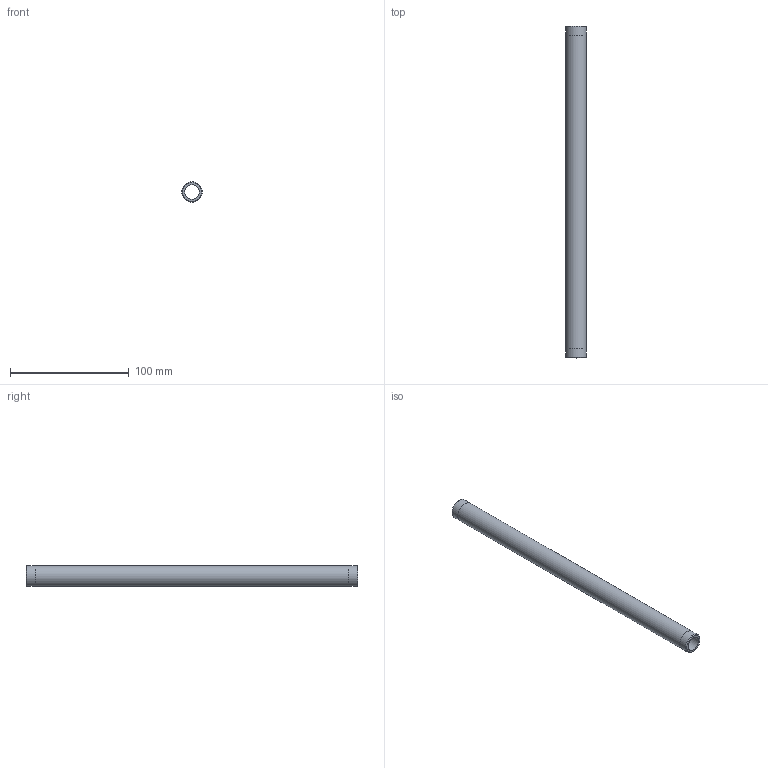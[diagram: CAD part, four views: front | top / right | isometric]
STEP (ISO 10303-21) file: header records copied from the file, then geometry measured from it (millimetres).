
FILE_DESCRIPTION(/* description */ (''),/* implementation_level */ '2;1');
FILE_NAME(/* name */ 'C:/Users/drich/Desktop/BPN38-11 v1.step',/* time_stamp */ '2020-01-03T15:22:58-06:00',/* author */ (''),/* organization */ (''),/* preprocessor_version */ 'ST-DEVELOPER v18',/* originating_system */ 'Autodesk Translation Framework v8.12.0.6',/* authorisation */ '');
FILE_SCHEMA (('AUTOMOTIVE_DESIGN { 1 0 10303 214 3 1 1 }'));
Length unit declared in the file: inch
Products named in the file (1): BPN38-11
Bounding box: 17.14 x 279.4 x 17.14 mm (x, y, z)
Volume: 30044.2 mm3; surface area: 26204.3 mm2
Topology: 1 solids, 1 shells, 10 faces, 24 edges, 18 vertices
Faces by surface type: cylinder 4, plane 4, cone 2
Full cylindrical faces by diameter (mm): 12.522 x1, 17.094 x2, 17.145 x1
Entity records: 360 total; most frequent: DIRECTION 64, CARTESIAN_POINT 53, ORIENTED_EDGE 48, AXIS2_PLACEMENT_3D 29, EDGE_CURVE 24, CIRCLE 18, VERTEX_POINT 18, EDGE_LOOP 14
